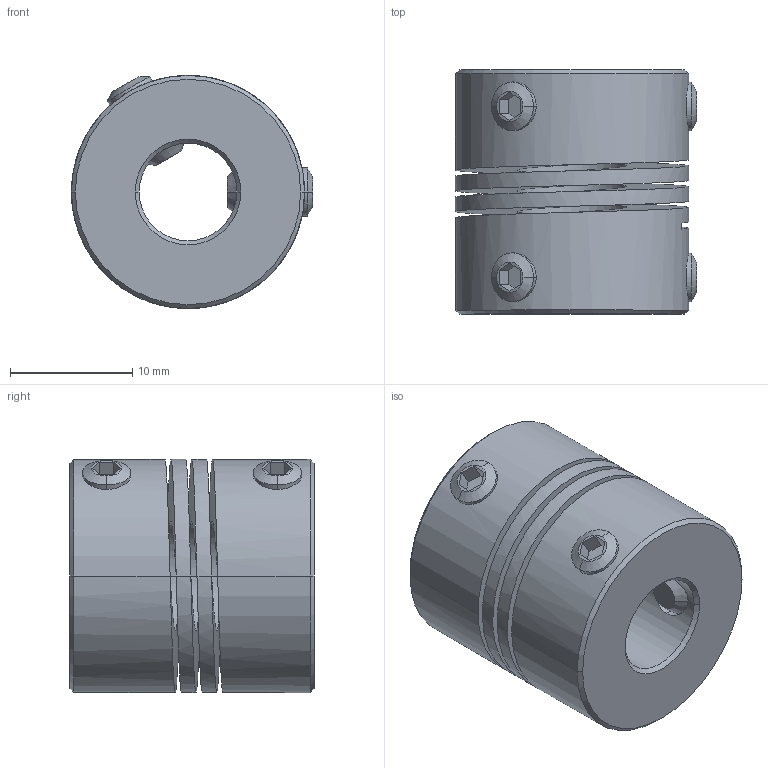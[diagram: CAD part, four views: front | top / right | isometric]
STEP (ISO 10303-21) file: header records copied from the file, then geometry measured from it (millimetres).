
FILE_DESCRIPTION((''),'2;1');
FILE_NAME('820_19_ASM','2006-12-06T',('Gary Melling'),(''),'PRO/ENGINEER BY PARAMETRIC TECHNOLOGY CORPORATION, 2006240','PRO/ENGINEER BY PARAMETRIC TECHNOLOGY CORPORATION, 2006240','');
FILE_SCHEMA(('CONFIG_CONTROL_DESIGN'));
Length unit declared in the file: millimetre
Products named in the file (3): 820_19; GS_4S; 820_19_ASM
Assembly tree (5 placements, depth 2):
  820_19_ASM
    820_19
    GS_4S  x4
Bounding box: 19.75 x 20 x 19.1 mm (x, y, z)
Volume: 4271.2 mm3; surface area: 4160.8 mm2
Topology: 5 solids, 5 shells, 104 faces, 258 edges, 164 vertices
Faces by surface type: plane 42, cylinder 36, cone 24, bspline 2
Entity records: 3302 total; most frequent: CARTESIAN_POINT 1765, ORIENTED_EDGE 324, DIRECTION 268, EDGE_CURVE 162, VERTEX_POINT 104, AXIS2_PLACEMENT_3D 97, VECTOR 74, LINE 74
